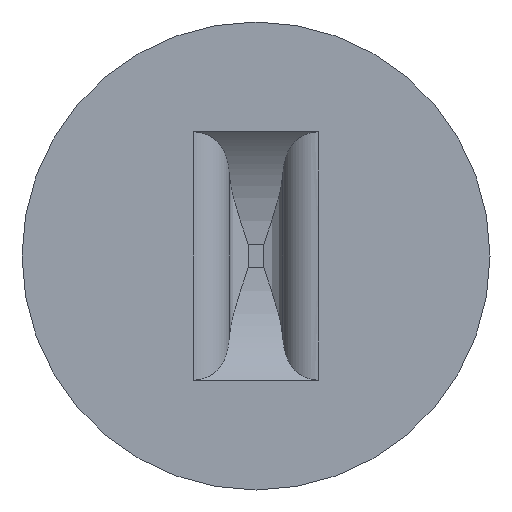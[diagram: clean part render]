
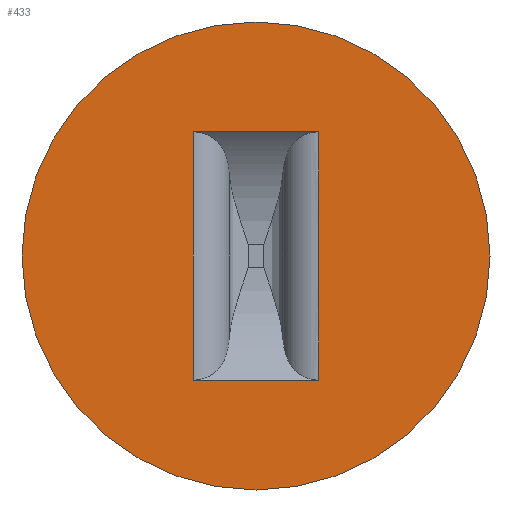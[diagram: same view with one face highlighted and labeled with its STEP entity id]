
A CAD part, front view. The second image highlights one B-rep face of the part: STEP entity #433.
In plain terms, the highlighted planar face has unit normal (0, -1, 0).
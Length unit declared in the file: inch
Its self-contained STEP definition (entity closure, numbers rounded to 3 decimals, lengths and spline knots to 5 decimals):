
#7 = DIRECTION ( 'NONE',  ( 0., -1., 0. ) ) ;
#8 = CARTESIAN_POINT ( 'NONE',  ( 0.26914, 0.082, 0.561 ) ) ;
#12 = DIRECTION ( 'NONE',  ( -1., 0., 0. ) ) ;
#39 = CARTESIAN_POINT ( 'NONE',  ( 0.26914, -0.075, 1.022 ) ) ;
#46 = CARTESIAN_POINT ( 'NONE',  ( 0., -0.075, 0.511 ) ) ;
#49 = CARTESIAN_POINT ( 'NONE',  ( -0.26914, -0.075, -0.01959 ) ) ;
#64 = CIRCLE ( 'NONE', #532, 1. ) ;
#67 = AXIS2_PLACEMENT_3D ( 'NONE', #8, #125, #12 ) ;
#84 = DIRECTION ( 'NONE',  ( 1., 0., 0. ) ) ;
#98 = CARTESIAN_POINT ( 'NONE',  ( -0.26914, -0.075, 1.04159 ) ) ;
#117 = CARTESIAN_POINT ( 'NONE',  ( 0., -0.075, -0.489 ) ) ;
#125 = DIRECTION ( 'NONE',  ( 0., 0., -1. ) ) ;
#141 = VECTOR ( 'NONE', #590, 39.37008 ) ;
#151 = ORIENTED_EDGE ( 'NONE', *, *, #181, .F. ) ;
#161 = ORIENTED_EDGE ( 'NONE', *, *, #316, .F. ) ;
#163 = DIRECTION ( 'NONE',  ( 0., 0., 1. ) ) ;
#170 = CARTESIAN_POINT ( 'NONE',  ( -0.26914, -0.075, 1.022 ) ) ;
#173 = LINE ( 'NONE', #236, #708 ) ;
#179 = PLANE ( 'NONE',  #794 ) ;
#181 = EDGE_CURVE ( 'NONE', #583, #497, #251, .T. ) ;
#185 = ORIENTED_EDGE ( 'NONE', *, *, #615, .T. ) ;
#189 = AXIS2_PLACEMENT_3D ( 'NONE', #675, #468, #806 ) ;
#195 = CARTESIAN_POINT ( 'NONE',  ( 0., -0.075, 1.511 ) ) ;
#202 = CARTESIAN_POINT ( 'NONE',  ( 0.269, -0.075, 0.461 ) ) ;
#215 = VECTOR ( 'NONE', #84, 39.37008 ) ;
#216 = VERTEX_POINT ( 'NONE', #358 ) ;
#218 = VECTOR ( 'NONE', #163, 39.37008 ) ;
#236 = CARTESIAN_POINT ( 'NONE',  ( 0.26887, -0.075, 1.022 ) ) ;
#247 = CIRCLE ( 'NONE', #189, 0.157 ) ;
#251 = CIRCLE ( 'NONE', #67, 0.157 ) ;
#276 = CARTESIAN_POINT ( 'NONE',  ( 0.269, -0.075, -0.01959 ) ) ;
#279 = VERTEX_POINT ( 'NONE', #294 ) ;
#294 = CARTESIAN_POINT ( 'NONE',  ( 0.26887, -0.075, 1.04159 ) ) ;
#310 = LINE ( 'NONE', #855, #446 ) ;
#313 = DIRECTION ( 'NONE',  ( 0., 1., 0. ) ) ;
#316 = EDGE_CURVE ( 'NONE', #425, #526, #514, .T. ) ;
#317 = CARTESIAN_POINT ( 'NONE',  ( 0., -0.075, 0.511 ) ) ;
#324 = DIRECTION ( 'NONE',  ( 0., 0., -1. ) ) ;
#358 = CARTESIAN_POINT ( 'NONE',  ( 0.26914, -0.075, 0.461 ) ) ;
#360 = VERTEX_POINT ( 'NONE', #117 ) ;
#364 = LINE ( 'NONE', #98, #215 ) ;
#372 = DIRECTION ( 'NONE',  ( 1., 0., 0. ) ) ;
#383 = ORIENTED_EDGE ( 'NONE', *, *, #431, .F. ) ;
#384 = LINE ( 'NONE', #39, #218 ) ;
#392 = CARTESIAN_POINT ( 'NONE',  ( 0.26887, -0.075, 0.561 ) ) ;
#393 = EDGE_CURVE ( 'NONE', #515, #526, #310, .T. ) ;
#406 = EDGE_CURVE ( 'NONE', #854, #360, #646, .T. ) ;
#410 = EDGE_CURVE ( 'NONE', #450, #425, #786, .T. ) ;
#425 = VERTEX_POINT ( 'NONE', #790 ) ;
#428 = EDGE_LOOP ( 'NONE', ( #383, #845 ) ) ;
#431 = EDGE_CURVE ( 'NONE', #360, #854, #64, .T. ) ;
#433 = ADVANCED_FACE ( 'NONE', ( #452, #783 ), #179, .T. ) ;
#446 = VECTOR ( 'NONE', #324, 39.37008 ) ;
#450 = VERTEX_POINT ( 'NONE', #664 ) ;
#452 = FACE_BOUND ( 'NONE', #653, .T. ) ;
#468 = DIRECTION ( 'NONE',  ( 0., 0., 1. ) ) ;
#474 = EDGE_CURVE ( 'NONE', #515, #216, #247, .T. ) ;
#492 = VECTOR ( 'NONE', #372, 39.37008 ) ;
#497 = VERTEX_POINT ( 'NONE', #392 ) ;
#514 = LINE ( 'NONE', #49, #492 ) ;
#515 = VERTEX_POINT ( 'NONE', #202 ) ;
#522 = DIRECTION ( 'NONE',  ( 0., 0., 1. ) ) ;
#526 = VERTEX_POINT ( 'NONE', #276 ) ;
#532 = AXIS2_PLACEMENT_3D ( 'NONE', #317, #848, #522 ) ;
#583 = VERTEX_POINT ( 'NONE', #618 ) ;
#590 = DIRECTION ( 'NONE',  ( 0., 0., -1. ) ) ;
#602 = DIRECTION ( 'NONE',  ( 0., 0., -1. ) ) ;
#615 = EDGE_CURVE ( 'NONE', #450, #279, #364, .T. ) ;
#618 = CARTESIAN_POINT ( 'NONE',  ( 0.26914, -0.075, 0.561 ) ) ;
#637 = ORIENTED_EDGE ( 'NONE', *, *, #393, .T. ) ;
#646 = CIRCLE ( 'NONE', #817, 1. ) ;
#649 = ORIENTED_EDGE ( 'NONE', *, *, #474, .F. ) ;
#653 = EDGE_LOOP ( 'NONE', ( #821, #185, #818, #151, #713, #649, #637, #161 ) ) ;
#664 = CARTESIAN_POINT ( 'NONE',  ( -0.26914, -0.075, 1.04159 ) ) ;
#675 = CARTESIAN_POINT ( 'NONE',  ( 0.26914, 0.082, 0.461 ) ) ;
#688 = EDGE_CURVE ( 'NONE', #279, #497, #173, .T. ) ;
#702 = DIRECTION ( 'NONE',  ( 0., 0., 1. ) ) ;
#704 = EDGE_CURVE ( 'NONE', #216, #583, #384, .T. ) ;
#708 = VECTOR ( 'NONE', #775, 39.37008 ) ;
#713 = ORIENTED_EDGE ( 'NONE', *, *, #704, .F. ) ;
#718 = CARTESIAN_POINT ( 'NONE',  ( -0.625, -0.075, 1.022 ) ) ;
#775 = DIRECTION ( 'NONE',  ( 0., 0., -1. ) ) ;
#783 = FACE_OUTER_BOUND ( 'NONE', #428, .T. ) ;
#786 = LINE ( 'NONE', #170, #141 ) ;
#790 = CARTESIAN_POINT ( 'NONE',  ( -0.26914, -0.075, -0.01959 ) ) ;
#794 = AXIS2_PLACEMENT_3D ( 'NONE', #718, #7, #602 ) ;
#806 = DIRECTION ( 'NONE',  ( -1., 0., 0. ) ) ;
#817 = AXIS2_PLACEMENT_3D ( 'NONE', #46, #313, #702 ) ;
#818 = ORIENTED_EDGE ( 'NONE', *, *, #688, .T. ) ;
#821 = ORIENTED_EDGE ( 'NONE', *, *, #410, .F. ) ;
#845 = ORIENTED_EDGE ( 'NONE', *, *, #406, .F. ) ;
#848 = DIRECTION ( 'NONE',  ( 0., 1., 0. ) ) ;
#854 = VERTEX_POINT ( 'NONE', #195 ) ;
#855 = CARTESIAN_POINT ( 'NONE',  ( 0.269, -0.075, 1.022 ) ) ;
